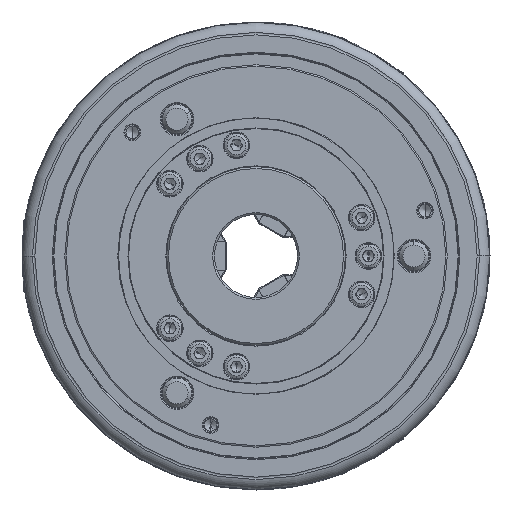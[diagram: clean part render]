
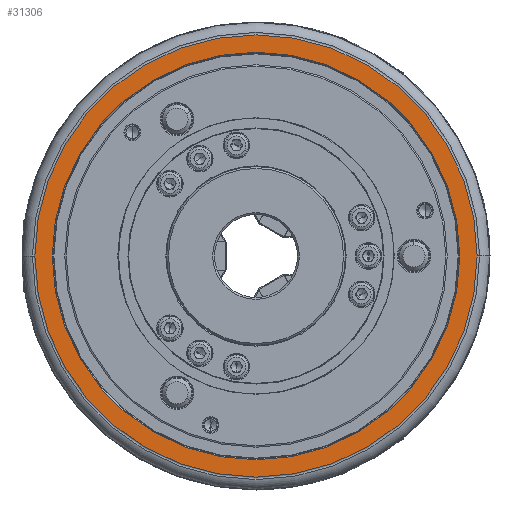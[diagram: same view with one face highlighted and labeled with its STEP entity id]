
A CAD part, left-side view. The second image highlights one B-rep face of the part: STEP entity #31306.
In plain terms, the highlighted planar face has unit normal (-1, 0, 0).
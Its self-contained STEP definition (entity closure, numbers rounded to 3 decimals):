
#92 = ORIENTED_EDGE ( 'NONE', *, *, #26692, .F. ) ;
#3944 = DIRECTION ( 'NONE',  ( 0., 0., 1. ) ) ;
#4710 = CARTESIAN_POINT ( 'NONE',  ( -100., 0., 0. ) ) ;
#9509 = VERTEX_POINT ( 'NONE', #19959 ) ;
#11375 = DIRECTION ( 'NONE',  ( -1., 0., 0. ) ) ;
#18803 = CIRCLE ( 'NONE', #74143, 110.6 ) ;
#19011 = CIRCLE ( 'NONE', #44349, 120. ) ;
#19959 = CARTESIAN_POINT ( 'NONE',  ( -100., 0., 110.6 ) ) ;
#21788 = DIRECTION ( 'NONE',  ( 1., 0., 0. ) ) ;
#25298 = ORIENTED_EDGE ( 'NONE', *, *, #49895, .T. ) ;
#26249 = FACE_BOUND ( 'NONE', #27327, .T. ) ;
#26692 = EDGE_CURVE ( 'NONE', #81137, #83950, #19011, .T. ) ;
#27327 = EDGE_LOOP ( 'NONE', ( #25298, #59945 ) ) ;
#29804 = CARTESIAN_POINT ( 'NONE',  ( -100., 120., 0. ) ) ;
#31306 = ADVANCED_FACE ( 'NONE', ( #94059, #26249 ), #56433, .T. ) ;
#32527 = CARTESIAN_POINT ( 'NONE',  ( -100., 0., 0. ) ) ;
#35325 = AXIS2_PLACEMENT_3D ( 'NONE', #79184, #11375, #3944 ) ;
#36793 = ORIENTED_EDGE ( 'NONE', *, *, #97344, .F. ) ;
#38195 = CIRCLE ( 'NONE', #93512, 110.6 ) ;
#44349 = AXIS2_PLACEMENT_3D ( 'NONE', #32527, #92910, #48331 ) ;
#46881 = CARTESIAN_POINT ( 'NONE',  ( -100., -120., 0. ) ) ;
#48331 = DIRECTION ( 'NONE',  ( 0., 1., 0. ) ) ;
#49895 = EDGE_CURVE ( 'NONE', #9509, #62547, #38195, .T. ) ;
#53169 = EDGE_CURVE ( 'NONE', #62547, #9509, #18803, .T. ) ;
#56302 = DIRECTION ( 'NONE',  ( 1., 0., 0. ) ) ;
#56433 = PLANE ( 'NONE',  #35325 ) ;
#59945 = ORIENTED_EDGE ( 'NONE', *, *, #53169, .T. ) ;
#62547 = VERTEX_POINT ( 'NONE', #79273 ) ;
#65338 = DIRECTION ( 'NONE',  ( 0., 0., -1. ) ) ;
#68367 = EDGE_LOOP ( 'NONE', ( #92, #36793 ) ) ;
#72106 = DIRECTION ( 'NONE',  ( 0., 0., -1. ) ) ;
#73265 = CARTESIAN_POINT ( 'NONE',  ( -100., 0., 0. ) ) ;
#74143 = AXIS2_PLACEMENT_3D ( 'NONE', #73265, #21788, #65338 ) ;
#77602 = CARTESIAN_POINT ( 'NONE',  ( -100., 0., 0. ) ) ;
#79184 = CARTESIAN_POINT ( 'NONE',  ( -100., 55.3, -95.782 ) ) ;
#79273 = CARTESIAN_POINT ( 'NONE',  ( -100., 0., -110.6 ) ) ;
#80924 = DIRECTION ( 'NONE',  ( 0., 1., 0. ) ) ;
#81137 = VERTEX_POINT ( 'NONE', #29804 ) ;
#83950 = VERTEX_POINT ( 'NONE', #46881 ) ;
#84217 = CIRCLE ( 'NONE', #96910, 120. ) ;
#87872 = DIRECTION ( 'NONE',  ( 1., 0., 0. ) ) ;
#92910 = DIRECTION ( 'NONE',  ( 1., 0., 0. ) ) ;
#93512 = AXIS2_PLACEMENT_3D ( 'NONE', #77602, #56302, #72106 ) ;
#94059 = FACE_OUTER_BOUND ( 'NONE', #68367, .T. ) ;
#96910 = AXIS2_PLACEMENT_3D ( 'NONE', #4710, #87872, #80924 ) ;
#97344 = EDGE_CURVE ( 'NONE', #83950, #81137, #84217, .T. ) ;
